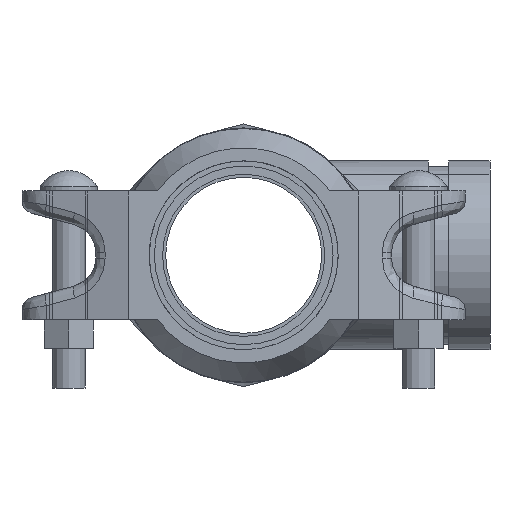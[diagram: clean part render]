
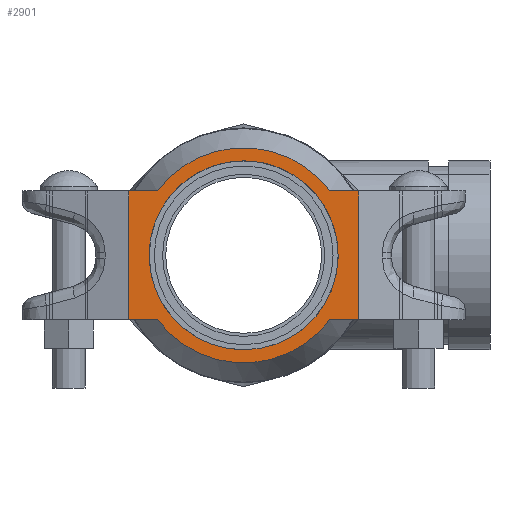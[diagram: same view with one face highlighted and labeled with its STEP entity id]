
A CAD part, left-side view. The second image highlights one B-rep face of the part: STEP entity #2901.
In plain terms, the highlighted planar face has unit normal (-1, 0, 0) as drawn and (0, 0, -1) by its records, which use the part's own axes.
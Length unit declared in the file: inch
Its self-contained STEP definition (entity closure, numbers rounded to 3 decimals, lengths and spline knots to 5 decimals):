
#158=FACE_BOUND('',#544,.T.);
#223=PLANE('',#3305);
#365=FACE_OUTER_BOUND('',#543,.T.);
#543=EDGE_LOOP('',(#2454,#2455,#2456,#2457,#2458,#2459,#2460,#2461));
#544=EDGE_LOOP('',(#2462,#2463));
#602=LINE('',#4685,#779);
#728=LINE('',#5421,#905);
#733=LINE('',#5465,#910);
#735=LINE('',#5473,#912);
#736=LINE('',#5536,#913);
#738=LINE('',#5545,#915);
#779=VECTOR('',#3621,0.3937);
#905=VECTOR('',#4049,0.3937);
#910=VECTOR('',#4062,0.3937);
#912=VECTOR('',#4066,0.3937);
#913=VECTOR('',#4069,0.3937);
#915=VECTOR('',#4075,0.3937);
#1039=CIRCLE('',#3299,1.4375);
#1040=CIRCLE('',#3300,1.4375);
#1043=CIRCLE('',#3306,1.6375);
#1044=CIRCLE('',#3307,1.6375);
#1156=VERTEX_POINT('',#4682);
#1157=VERTEX_POINT('',#4684);
#1295=VERTEX_POINT('',#5418);
#1296=VERTEX_POINT('',#5420);
#1303=VERTEX_POINT('',#5461);
#1305=VERTEX_POINT('',#5472);
#1313=VERTEX_POINT('',#5532);
#1315=VERTEX_POINT('',#5544);
#1319=VERTEX_POINT('',#5581);
#1320=VERTEX_POINT('',#5582);
#1458=EDGE_CURVE('',#1157,#1156,#602,.T.);
#1670=EDGE_CURVE('',#1296,#1295,#728,.T.);
#1681=EDGE_CURVE('',#1303,#1295,#733,.T.);
#1684=EDGE_CURVE('',#1157,#1305,#735,.T.);
#1694=EDGE_CURVE('',#1313,#1156,#736,.T.);
#1698=EDGE_CURVE('',#1296,#1315,#738,.T.);
#1705=EDGE_CURVE('',#1319,#1320,#1039,.T.);
#1707=EDGE_CURVE('',#1320,#1319,#1040,.T.);
#1710=EDGE_CURVE('',#1303,#1305,#1043,.T.);
#1711=EDGE_CURVE('',#1313,#1315,#1044,.T.);
#2454=ORIENTED_EDGE('',*,*,#1710,.T.);
#2455=ORIENTED_EDGE('',*,*,#1684,.F.);
#2456=ORIENTED_EDGE('',*,*,#1458,.T.);
#2457=ORIENTED_EDGE('',*,*,#1694,.F.);
#2458=ORIENTED_EDGE('',*,*,#1711,.T.);
#2459=ORIENTED_EDGE('',*,*,#1698,.F.);
#2460=ORIENTED_EDGE('',*,*,#1670,.T.);
#2461=ORIENTED_EDGE('',*,*,#1681,.F.);
#2462=ORIENTED_EDGE('',*,*,#1705,.F.);
#2463=ORIENTED_EDGE('',*,*,#1707,.F.);
#2901=ADVANCED_FACE('',(#365,#158),#223,.T.);
#3299=AXIS2_PLACEMENT_3D('',#5583,#4090,#4091);
#3300=AXIS2_PLACEMENT_3D('',#5585,#4093,#4094);
#3305=AXIS2_PLACEMENT_3D('',#5590,#4103,#4104);
#3306=AXIS2_PLACEMENT_3D('',#5591,#4105,#4106);
#3307=AXIS2_PLACEMENT_3D('',#5592,#4107,#4108);
#3621=DIRECTION('',(0.,-1.,0.));
#4049=DIRECTION('',(0.,1.,0.));
#4062=DIRECTION('',(-1.,0.,0.));
#4066=DIRECTION('',(-1.,0.,0.));
#4069=DIRECTION('',(1.,0.,0.));
#4075=DIRECTION('',(1.,0.,0.));
#4090=DIRECTION('center_axis',(0.,0.,-1.));
#4091=DIRECTION('ref_axis',(-1.,0.,0.));
#4093=DIRECTION('center_axis',(0.,0.,-1.));
#4094=DIRECTION('ref_axis',(-1.,0.,0.));
#4103=DIRECTION('center_axis',(0.,0.,-1.));
#4104=DIRECTION('ref_axis',(1.,0.,0.));
#4105=DIRECTION('center_axis',(0.,0.,-1.));
#4106=DIRECTION('ref_axis',(-1.,0.,0.));
#4107=DIRECTION('center_axis',(0.,0.,-1.));
#4108=DIRECTION('ref_axis',(-1.,0.,0.));
#4682=CARTESIAN_POINT('',(1.75,-0.98,-1.065));
#4684=CARTESIAN_POINT('',(1.75,0.98,-1.065));
#4685=CARTESIAN_POINT('',(1.75,0.,-1.065));
#5418=CARTESIAN_POINT('',(-1.75,0.98,-1.065));
#5420=CARTESIAN_POINT('',(-1.75,-0.98,-1.065));
#5421=CARTESIAN_POINT('',(-1.75,0.,-1.065));
#5461=CARTESIAN_POINT('',(-1.31187,0.98,-1.065));
#5465=CARTESIAN_POINT('',(1.75,0.98,-1.065));
#5472=CARTESIAN_POINT('',(1.31187,0.98,-1.065));
#5473=CARTESIAN_POINT('',(1.75,0.98,-1.065));
#5532=CARTESIAN_POINT('',(1.31187,-0.98,-1.065));
#5536=CARTESIAN_POINT('',(1.75,-0.98,-1.065));
#5544=CARTESIAN_POINT('',(-1.31187,-0.98,-1.065));
#5545=CARTESIAN_POINT('',(1.75,-0.98,-1.065));
#5581=CARTESIAN_POINT('',(-1.05167,0.98,-1.065));
#5582=CARTESIAN_POINT('',(0.,1.4375,-1.065));
#5583=CARTESIAN_POINT('Origin',(0.,0.,-1.065));
#5585=CARTESIAN_POINT('Origin',(0.,0.,-1.065));
#5590=CARTESIAN_POINT('Origin',(0.,-1.4375,-1.065));
#5591=CARTESIAN_POINT('Origin',(0.,0.,-1.065));
#5592=CARTESIAN_POINT('Origin',(0.,0.,-1.065));
